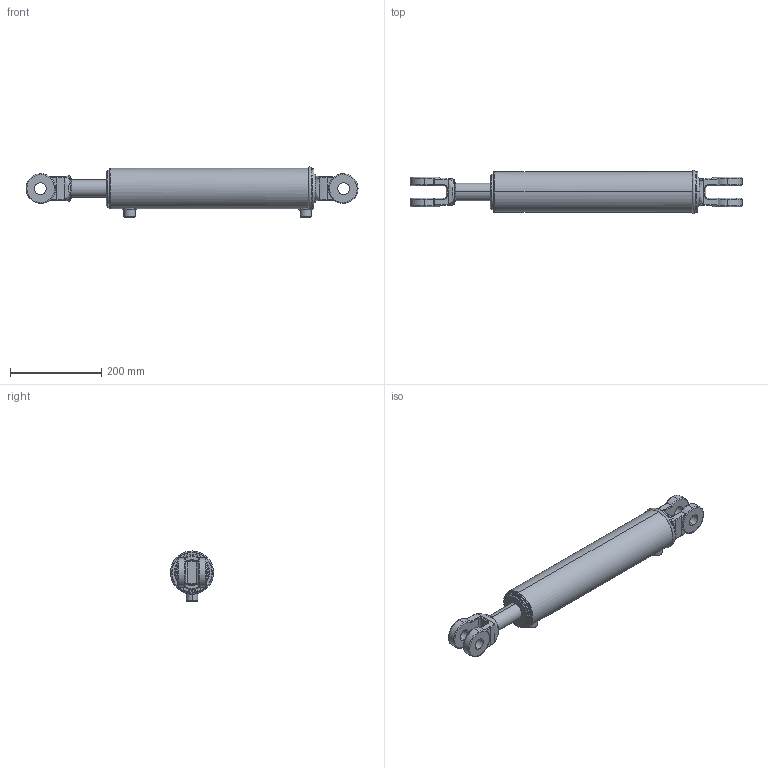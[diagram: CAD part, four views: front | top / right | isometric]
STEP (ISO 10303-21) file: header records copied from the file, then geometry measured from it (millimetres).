
FILE_DESCRIPTION (( 'STEP AP203' ), '1' );
FILE_NAME ('CL-CL300150x355 (14).STEP', '2014-11-21T23:21:27', ( '' ), ( '' ), 'SwSTEP 2.0', 'SolidWorks 2014', '' );
FILE_SCHEMA (( 'CONFIG_CONTROL_DESIGN' ));
Length unit declared in the file: millimetre
Products named in the file (4): CL-CL300150x  body_3x14; 3 in ext circlip; SPARE 6_14x1.5; CL-CL300150x355 (14)
Assembly tree (3 placements, depth 2):
  CL-CL300150x355 (14)
    CL-CL300150x  body_3x14
    3 in ext circlip
    SPARE 6_14x1.5
Bounding box: 729.39 x 94.87 x 109.9 mm (x, y, z)
Volume: 3330487 mm3; surface area: 304872.6 mm2
Topology: 3 solids, 3 shells, 212 faces, 515 edges, 316 vertices
Faces by surface type: cylinder 92, bspline 61, plane 37, torus 14, cone 8
Entity records: 11771 total; most frequent: CARTESIAN_POINT 6695, ORIENTED_EDGE 1022, DIRECTION 943, EDGE_CURVE 511, AXIS2_PLACEMENT_3D 393, VERTEX_POINT 316, CIRCLE 236, EDGE_LOOP 235
